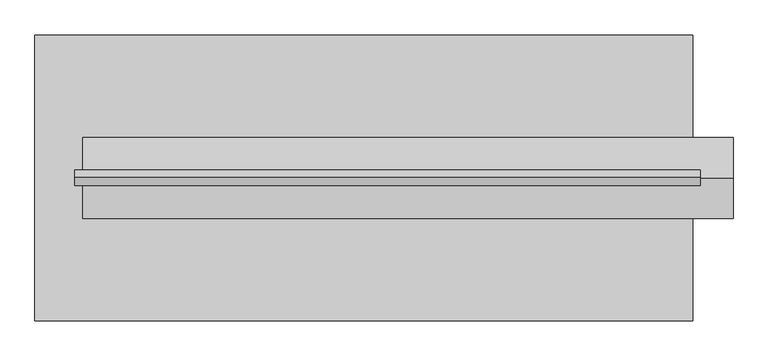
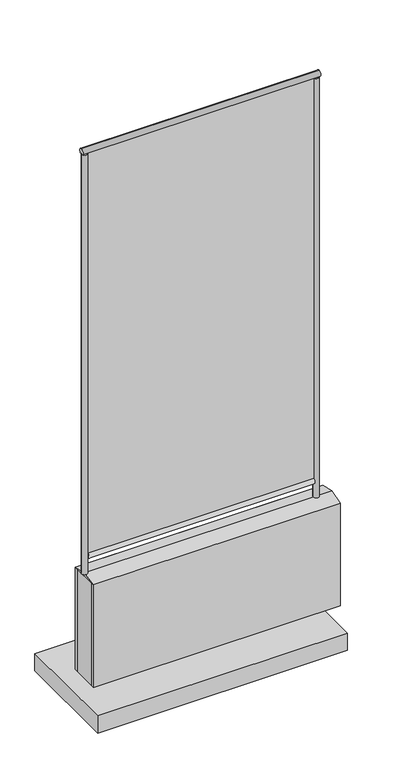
"""IFC4 building model written with IfcOpenShell, lengths in millimetres: plate geometry, FDE_FQ01_FechamentoParaQuadradeEsportes : FQ01_LateraisSapata."""

from ifc_helpers import new_model, si_unit, point, frame, frame_2d, origin, place, context, project, spatial, polyline, circle_curve, trimmed, segment, composite_curve, outline, extrude, source, transform, mapped, element, save


def plate_80ebe286(model_context):
    return source(origin(), model_context, "Body", "SweptSolid", [
        extrude(outline(composite_curve([segment(trimmed(circle_curve(frame_2d((-639.9999998, 0.0)), 16.0), [point((-655.9999998, 0.0))], [point((-623.9999998, 0.0))], False, "CARTESIAN"), True, "CONTINUOUS"), segment(trimmed(circle_curve(frame_2d((-639.9999998, 0.0)), 16.0), [point((-623.9999998, 0.0))], [point((-655.9999998, 0.0))], False, "CARTESIAN"), True, "CONTINUOUS")], self_intersect=False)), frame((0.0, 0.0, 920.0), z_axis=(0.0, 0.0, 1.0), x_axis=(1.0, 0.0, 0.0)), (0.0, 0.0, 1.0), 2448.0),
        extrude(outline(composite_curve([segment(trimmed(circle_curve(frame_2d((639.9999998, 0.0)), 16.0), [point((623.9999998, 0.0))], [point((655.9999998, 0.0))], False, "CARTESIAN"), True, "CONTINUOUS"), segment(trimmed(circle_curve(frame_2d((639.9999998, 0.0)), 16.0), [point((655.9999998, 0.0))], [point((623.9999998, 0.0))], False, "CARTESIAN"), True, "CONTINUOUS")], self_intersect=False)), frame((0.0, 0.0, 920.0), z_axis=(0.0, 0.0, 1.0), x_axis=(1.0, 0.0, 0.0)), (0.0, 0.0, 1.0), 2448.0),
        extrude(outline(polyline([(639.9999998, 300.0), (639.9999998, -300.0), (-739.9999998, -300.0), (-739.9999998, 300.0), (639.9999998, 300.0)])), frame((0.0, 0.0, 200.0), z_axis=(0.0, 0.0, 1.0), x_axis=(1.0, 0.0, 0.0)), (0.0, 0.0, 1.0), 100.0),
        extrude(outline(polyline([(85.0, 900.0), (-85.0, 900.0), (0.0, 920.0), (85.0, 900.0)])), frame((-639.9999998, 0.0, 0.0), z_axis=(1.0, 0.0, 0.0), x_axis=(0.0, 1.0, 0.0)), (0.0, 0.0, 1.0), 1364.9999997),
        extrude(outline(polyline([(-639.9999998, -85.0), (-639.9999998, -70.0), (724.9999998, -70.0), (724.9999998, -85.0), (-639.9999998, -85.0)])), frame((0.0, 0.0, 300.0), z_axis=(0.0, 0.0, 1.0), x_axis=(1.0, 0.0, 0.0)), (0.0, 0.0, 1.0), 600.0),
        extrude(outline(polyline([(-639.9999998, 70.0), (-639.9999998, 85.0), (724.9999998, 85.0), (724.9999998, 70.0), (-639.9999998, 70.0)])), frame((0.0, 0.0, 300.0), z_axis=(0.0, 0.0, 1.0), x_axis=(1.0, 0.0, 0.0)), (0.0, 0.0, 1.0), 600.0),
        extrude(outline(polyline([(724.9999998, 70.0), (724.9999998, -70.0), (-639.9999998, -70.0), (-639.9999998, 70.0), (724.9999998, 70.0)])), frame((0.0, 0.0, 300.0), z_axis=(0.0, 0.0, 1.0), x_axis=(1.0, 0.0, 0.0)), (0.0, 0.0, 1.0), 600.0),
        extrude(outline(polyline([(623.9999998, -5.0), (-623.9999998, -5.0), (-623.9999998, 5.0), (623.9999998, 5.0), (623.9999998, -5.0)])), frame((0.0, 0.0, 1032.0), z_axis=(0.0, 0.0, 1.0), x_axis=(1.0, 0.0, 0.0)), (0.0, 0.0, 1.0), 2336.0),
        extrude(outline(composite_curve([segment(trimmed(circle_curve(frame_2d((0.0, 1016.0)), 16.0), [point((0.0, 1032.0))], [point((0.0, 1000.0))], False, "CARTESIAN"), True, "CONTINUOUS"), segment(trimmed(circle_curve(frame_2d((0.0, 1016.0)), 16.0), [point((0.0, 1000.0))], [point((0.0, 1032.0))], False, "CARTESIAN"), True, "CONTINUOUS")], self_intersect=False)), frame((-623.9999998, 0.0, 0.0), z_axis=(1.0, 0.0, 0.0), x_axis=(0.0, 1.0, 0.0)), (0.0, 0.0, 1.0), 1247.9999997),
        extrude(outline(composite_curve([segment(trimmed(circle_curve(frame_2d((0.0, 3384.0)), 16.0), [point((0.0, 3368.0))], [point((0.0, 3400.0))], False, "CARTESIAN"), True, "CONTINUOUS"), segment(trimmed(circle_curve(frame_2d((0.0, 3384.0)), 16.0), [point((0.0, 3400.0))], [point((0.0, 3368.0))], False, "CARTESIAN"), True, "CONTINUOUS")], self_intersect=False)), frame((-655.9999998, 0.0, 0.0), z_axis=(1.0, 0.0, 0.0), x_axis=(0.0, 1.0, 0.0)), (0.0, 0.0, 1.0), 1311.9999997),
    ])


if __name__ == "__main__":
    model = new_model("IFC4")
    model_context = context("Model", 3, world=origin())
    ifc_project = project(units=[si_unit("LENGTHUNIT", "METRE", prefix="MILLI")], contexts=[model_context])
    site = spatial("IfcSite", under=ifc_project)
    building = spatial("IfcBuilding", under=site)
    placement = place(None, origin())
    plate_shape = plate_80ebe286(model_context)
    element("IfcPlate", 1, ObjectType="FDE_FQ01_FechamentoParaQuadradeEsportes : FQ01_LateraisSapata", at=placement, inside=building, context=model_context, shape_type="MappedRepresentation", body=[
        mapped(plate_shape, transform((0.0, 0.0, 0.0), x_axis=(1.0, 0.0, 0.0), y_axis=(0.0, 1.0, 0.0), z_axis=(0.0, 0.0, 1.0))),
    ])
    save(model, "model.ifc")
